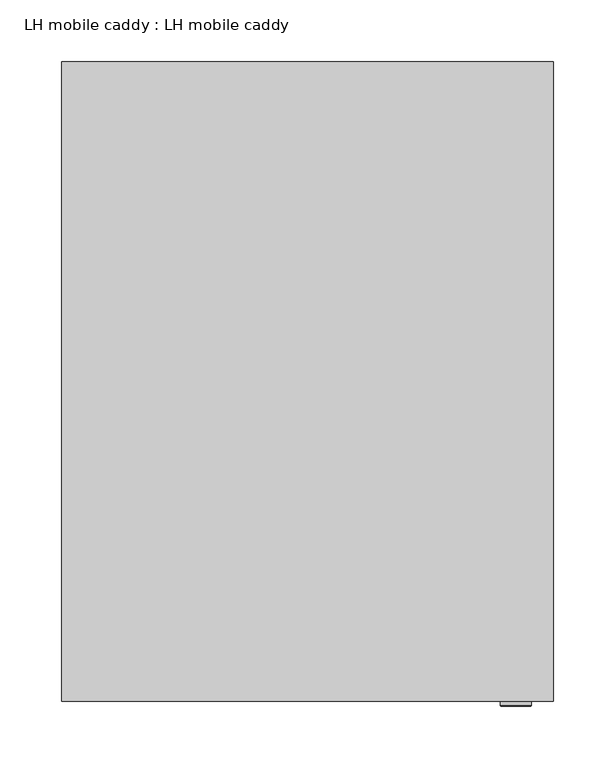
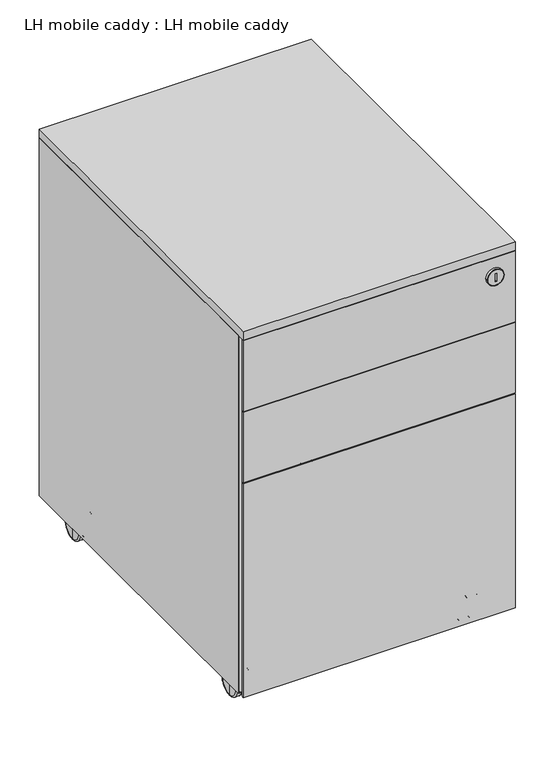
"""IFC4 building model written with IfcOpenShell, lengths in millimetres: furniture geometry, LH mobile caddy : LH mobile caddy."""

import ifcopenshell
import ifcopenshell.guid

model = None  # the IFC model being written
_history = None  # IfcOwnerHistory: only IFC2X3 demands one
_inside = {}  # id of a spatial element -> (the spatial element, [elements in it])
_under = {}  # id of a project, library or spatial element -> (it, [spatial elements below it])
_declared = {}  # id of a project -> (the project, [libraries it declares])
_typed = {}  # id of a type object -> (the type object, [elements of that type])
_made_of = {}  # id of a material, layer set ... -> (it, [elements and type objects made of it])


def new_model(schema):
    """Start an empty IFC model of exactly this schema.

    Asked for "IFC4X3", IfcOpenShell would pick the latest addendum, in which some entities
    have other attributes; the version numbers below select the first issue.
    IFC2X3 requires an IfcOwnerHistory on every rooted entity: one is made here for all.
    """
    global model, _history
    if schema == "IFC4X3":
        model = ifcopenshell.file(schema_version=(4, 3, 0, 0))
    else:
        model = ifcopenshell.file(schema=schema)
    _inside.clear()
    _under.clear()
    _declared.clear()
    _typed.clear()
    _made_of.clear()
    _history = None
    if model.schema == "IFC2X3":
        org = make("IfcOrganization", Name="unknown")
        user = make(
            "IfcPersonAndOrganization",
            ThePerson=make("IfcPerson", FamilyName="unknown"),
            TheOrganization=org,
        )
        app = make(
            "IfcApplication",
            ApplicationDeveloper=org,
            Version="unknown",
            ApplicationFullName="unknown",
            ApplicationIdentifier="unknown",
        )
        _history = make(
            "IfcOwnerHistory",
            OwningUser=user,
            OwningApplication=app,
            ChangeAction="ADDED",
            CreationDate=0,
        )
    return model


def make(cls, **values):
    """One entity of the class cls with the attributes given. An attribute that is None is left unset."""
    return model.create_entity(
        cls, **{name: value for name, value in values.items() if value is not None}
    )


def rooted(cls, **values):
    """An entity with a GlobalId (a new one), such as an element, a storey or a relation."""
    return make(cls, GlobalId=ifcopenshell.guid.new(), OwnerHistory=_history, **values)


def si_unit(unit_type, name, prefix=None):
    """IfcSIUnit, for example si_unit("LENGTHUNIT", "METRE", prefix="MILLI")."""
    return make("IfcSIUnit", UnitType=unit_type, Prefix=prefix, Name=name)


def assignment(units):
    """IfcUnitAssignment: the units of a project."""
    return None if units is None else make("IfcUnitAssignment", Units=units)


def point(xyz):
    """IfcCartesianPoint."""
    return None if xyz is None else make("IfcCartesianPoint", Coordinates=xyz)


def direction(xyz):
    """IfcDirection."""
    return None if xyz is None else make("IfcDirection", DirectionRatios=xyz)


def frame(location, z_axis=None, x_axis=None):
    """IfcAxis2Placement3D, a coordinate frame: its origin and axes. An axis left out is left unset."""
    return make(
        "IfcAxis2Placement3D",
        Location=point(location),
        Axis=direction(z_axis),
        RefDirection=direction(x_axis),
    )


def frame_2d(location, x_axis=None):
    """IfcAxis2Placement2D, a coordinate frame in the plane: its origin and x axis."""
    return make(
        "IfcAxis2Placement2D", Location=point(location), RefDirection=direction(x_axis)
    )


def origin():
    """The frame at (0, 0, 0) with its axes left unset."""
    return frame((0.0, 0.0, 0.0))


def place(relative_to, where):
    """IfcLocalPlacement: puts the frame where relative to a parent placement (None: the world)."""
    return make(
        "IfcLocalPlacement", PlacementRelTo=relative_to, RelativePlacement=where
    )


def context(
    kind, dimensions, precision=None, world=None, true_north=None, identifier=None
):
    """IfcGeometricRepresentationContext, for example the 3D "Model" context."""
    return make(
        "IfcGeometricRepresentationContext",
        ContextIdentifier=identifier,
        ContextType=kind,
        CoordinateSpaceDimension=dimensions,
        Precision=precision,
        WorldCoordinateSystem=world,
        TrueNorth=true_north,
    )


def project(units=None, contexts=None):
    """IfcProject with its units and contexts."""
    return rooted(
        "IfcProject",
        Name="project",
        RepresentationContexts=contexts,
        UnitsInContext=assignment(units),
    )


def spatial(cls, under=None, at=None, **own):
    """A site, building, storey or space (cls), placed at a placement, below another one or the project."""
    s = rooted(cls, ObjectPlacement=at, **own)
    if under is not None:
        _under.setdefault(under.id(), (under, []))[1].append(s)
    return s


def polyline(points):
    """IfcPolyline through the points."""
    return make("IfcPolyline", Points=[point(p) for p in points])


def circle_curve(where, radius):
    """IfcCircle in the frame where."""
    return make("IfcCircle", Position=where, Radius=radius)


def ellipse_curve(where, semi_axis1, semi_axis2):
    """IfcEllipse in the frame where."""
    return make(
        "IfcEllipse", Position=where, SemiAxis1=semi_axis1, SemiAxis2=semi_axis2
    )


def trimmed(basis, trim1, trim2, sense, master):
    """IfcTrimmedCurve: the piece of a basis curve between two trims."""
    return make(
        "IfcTrimmedCurve",
        BasisCurve=basis,
        Trim1=trim1,
        Trim2=trim2,
        SenseAgreement=sense,
        MasterRepresentation=master,
    )


def segment(curve, same_sense, transition):
    """IfcCompositeCurveSegment."""
    return make(
        "IfcCompositeCurveSegment",
        Transition=transition,
        SameSense=same_sense,
        ParentCurve=curve,
    )


def composite_curve(segments, self_intersect=None):
    """IfcCompositeCurve: segments joined end to end."""
    return make("IfcCompositeCurve", Segments=segments, SelfIntersect=self_intersect)


def outline(outer, holes=None, kind="AREA"):
    """IfcArbitraryClosedProfileDef: a profile drawn as a closed curve; with holes, ...WithVoids."""
    if holes is None:
        return make("IfcArbitraryClosedProfileDef", ProfileType=kind, OuterCurve=outer)
    return make(
        "IfcArbitraryProfileDefWithVoids",
        ProfileType=kind,
        OuterCurve=outer,
        InnerCurves=holes,
    )


def extrude(swept, where, along, depth):
    """IfcExtrudedAreaSolid: the profile swept, set in the frame where, extruded along a direction by depth."""
    return make(
        "IfcExtrudedAreaSolid",
        SweptArea=swept,
        Position=where,
        ExtrudedDirection=direction(along),
        Depth=depth,
    )


def shape(context_of_items, identifier, shape_type, items):
    """IfcShapeRepresentation: the items that make up one representation, for example the "Body"."""
    return make(
        "IfcShapeRepresentation",
        ContextOfItems=context_of_items,
        RepresentationIdentifier=identifier,
        RepresentationType=shape_type,
        Items=items,
    )


def source(mapping_origin, context_of_items, identifier, shape_type, items):
    """IfcRepresentationMap: a shape defined once, which mapped items show again and again."""
    return make(
        "IfcRepresentationMap",
        MappingOrigin=mapping_origin,
        MappedRepresentation=shape(context_of_items, identifier, shape_type, items),
    )


def transform(
    local_origin,
    x_axis=None,
    y_axis=None,
    z_axis=None,
    scale=None,
    scale2=None,
    scale3=None,
    uniform=True,
):
    """IfcCartesianTransformationOperator3D, or its non-uniform kind. x_axis, y_axis, z_axis: its Axis1, 2, 3."""
    if uniform:
        return make(
            "IfcCartesianTransformationOperator3D",
            Axis1=direction(x_axis),
            Axis2=direction(y_axis),
            LocalOrigin=point(local_origin),
            Scale=scale,
            Axis3=direction(z_axis),
        )
    return make(
        "IfcCartesianTransformationOperator3DnonUniform",
        Axis1=direction(x_axis),
        Axis2=direction(y_axis),
        LocalOrigin=point(local_origin),
        Scale=scale,
        Axis3=direction(z_axis),
        Scale2=scale2,
        Scale3=scale3,
    )


def mapped(mapping_source, mapping_target):
    """IfcMappedItem: shows the shape of a source again, moved by a transform."""
    return make(
        "IfcMappedItem", MappingSource=mapping_source, MappingTarget=mapping_target
    )


def made_of(thing, what):
    """Note that an element or type object is made of a material, layer set ...; save() writes the relation."""
    if what is not None:
        _made_of.setdefault(what.id(), (what, []))[1].append(thing)
    return thing


def element(
    cls,
    number,
    at=None,
    inside=None,
    cuts=None,
    type_object=None,
    material=None,
    context=None,
    identifier="Body",
    shape_type=None,
    held_by="IfcProductDefinitionShape",
    body=None,
    shapes=None,
    **own,
):
    """One element of the class cls, such as IfcWall. Its Tag is "e" and its number.

    at: its placement. inside: the storey or other place that contains it. cuts: it is an
    opening in that element (IfcRelVoidsElement). A single representation is given by context,
    identifier, shape_type and body (its items); several are given by shapes. held_by: the class
    of the entity that holds the representations. save() writes the other relations.
    """
    e = rooted(cls, Tag="e%d" % number, ObjectPlacement=at, **own)
    if body is not None:
        shapes = [shape(context, identifier, shape_type, body)]
    if shapes is not None:
        e.Representation = make(held_by, Representations=shapes)
    if inside is not None:
        _inside.setdefault(inside.id(), (inside, []))[1].append(e)
    if cuts is not None:
        rooted(
            "IfcRelVoidsElement", RelatingBuildingElement=cuts, RelatedOpeningElement=e
        )
    if type_object is not None:
        _typed.setdefault(type_object.id(), (type_object, []))[1].append(e)
    return made_of(e, material)


def aggregate(whole, parts):
    """IfcRelAggregates: a whole, such as a stair, and the parts it consists of."""
    return rooted("IfcRelAggregates", RelatingObject=whole, RelatedObjects=parts)


def save(model, path):
    """Write the relations noted so far, then the file.

    IfcRelAggregates (storeys below a building ...), IfcRelContainedInSpatialStructure (elements
    in a storey), IfcRelDefinesByType, IfcRelAssociatesMaterial and IfcRelDeclares: one each for
    every whole, place, type object, material and project.
    """
    for whole, parts in _under.values():
        aggregate(whole, parts)
    for where, things in _inside.values():
        rooted(
            "IfcRelContainedInSpatialStructure",
            RelatedElements=things,
            RelatingStructure=where,
        )
    for kind, things in _typed.values():
        rooted("IfcRelDefinesByType", RelatedObjects=things, RelatingType=kind)
    for what, things in _made_of.values():
        rooted("IfcRelAssociatesMaterial", RelatedObjects=things, RelatingMaterial=what)
    for by, libraries in _declared.values():
        rooted("IfcRelDeclares", RelatingContext=by, RelatedDefinitions=libraries)
    model.write(path)


def plane_surface(at):
    """IfcPlane: the flat surface through the origin of the frame at, square to its z axis."""
    return make("IfcPlane", Position=at)


def cylinder_surface(at, radius):
    """IfcCylindricalSurface: all points at the distance radius from the z axis of the frame at."""
    return make("IfcCylindricalSurface", Position=at, Radius=radius)


def revolved_surface(curve, axis_point, axis_direction):
    """IfcSurfaceOfRevolution: the curve turned about the line through axis_point along axis_direction."""
    return make(
        "IfcSurfaceOfRevolution",
        SweptCurve=make("IfcArbitraryOpenProfileDef", ProfileType="CURVE", Curve=curve),
        AxisPosition=make("IfcAxis1Placement", Location=point(axis_point), Axis=direction(axis_direction)),
    )


def advanced_brep(points, edges, surfaces, faces):
    """IfcAdvancedBrep: a solid bounded by faces that lie on surfaces and meet in shared edges.

    An edge is (start, end): straight between two places in points (the first is 0);
    or (start, end, curve); or (start, end, curve, False) where it runs against its curve.
    A face is (place in surfaces, loops), or (place, loops, False) where it looks against
    its surface's normal. A loop lists edges by number (the first is 1), with a minus sign
    where the edge is run from its end to its start. The first loop is the outer one.
    """
    corners = [point(p) for p in points]
    vertices = [make("IfcVertexPoint", VertexGeometry=c) for c in corners]
    made = []
    for start, end, *more in edges:
        made.append(
            make(
                "IfcEdgeCurve",
                EdgeStart=vertices[start],
                EdgeEnd=vertices[end],
                EdgeGeometry=more[0] if more else make("IfcPolyline", Points=[corners[start], corners[end]]),
                SameSense=more[1] if len(more) > 1 else True,
            )
        )
    hull = []
    for where, loops, *sense in faces:
        bounds = []
        for j, loop in enumerate(loops):
            ring = [make("IfcOrientedEdge", EdgeElement=made[abs(k) - 1], Orientation=k > 0) for k in loop]
            bounds.append(
                make(
                    "IfcFaceOuterBound" if j == 0 else "IfcFaceBound",
                    Bound=make("IfcEdgeLoop", EdgeList=ring),
                    Orientation=True,
                )
            )
        hull.append(make("IfcAdvancedFace", Bounds=bounds, FaceSurface=surfaces[where], SameSense=sense[0] if sense else True))
    return make("IfcAdvancedBrep", Outer=make("IfcClosedShell", CfsFaces=hull))


def lh_mobile_caddy_lh_mobile_caddy_ec028b27(model_context):
    return source(origin(), model_context, "Body", "SolidModel", [
        extrude(outline(polyline([(170.5273848, -260.0), (168.5273848, -260.0), (168.5273848, -160.0), (170.5273848, -160.0), (170.5273848, -260.0)])), frame((0.0, 0.0, 566.6206655), z_axis=(0.0, 0.0, 1.0), x_axis=(1.0, 0.0, 0.0)), (0.0, 0.0, 1.0), 12.0),
        advanced_brep(
        [(157.9473365, -264.0, 572.5526635), (181.0526635, -264.0, 572.5526635), (170.5273848, -264.0, 578.6206655), (170.5273848, -264.0, 566.6206655), (168.5273848, -264.0, 566.6206655), (168.5273848, -264.0, 578.6206655), (156.9473365, -260.0, 572.5526635), (182.0526635, -260.0, 572.5526635), (170.5273848, -260.0, 578.6206655), (168.5273848, -260.0, 578.6206655), (168.5273848, -260.0, 566.6206655), (170.5273848, -260.0, 566.6206655), (182.0526635, -263.0, 572.5526635), (156.9473365, -263.0, 572.5526635)],
        [
            (0, 1, circle_curve(frame((169.5, -264.0, 572.5526635), z_axis=(0.0, -1.0, 0.0), x_axis=(1.0, 0.0, 0.0)), 11.5526635)),
            (1, 0, circle_curve(frame((169.5, -264.0, 572.5526635), z_axis=(0.0, -1.0, 0.0), x_axis=(-1.0, 0.0, 0.0)), 11.5526635)),
            (2, 3),
            (3, 4),
            (4, 5),
            (5, 2),
            (6, 7, circle_curve(frame((169.5, -260.0, 572.5526635), z_axis=(0.0, 1.0, 0.0), x_axis=(1.0, 0.0, 0.0)), 12.5526635)),
            (7, 6, circle_curve(frame((169.5, -260.0, 572.5526635), z_axis=(0.0, 1.0, 0.0), x_axis=(1.0, 0.0, 0.0)), 12.5526635)),
            (8, 9),
            (9, 10),
            (10, 11),
            (11, 8),
            (7, 12),
            (12, 13, circle_curve(frame((169.5, -263.0, 572.5526635), z_axis=(0.0, 1.0, 0.0), x_axis=(1.0, 0.0, 0.0)), 12.5526635)),
            (13, 6),
            (13, 12, circle_curve(frame((169.5, -263.0, 572.5526635), z_axis=(0.0, 1.0, 0.0), x_axis=(1.0, 0.0, 0.0)), 12.5526635)),
            (2, 8),
            (11, 3),
            (10, 4),
            (9, 5),
            (0, 13, circle_curve(frame((157.9473365, -263.0, 572.5526635), z_axis=(0.0, 0.0, -1.0), x_axis=(-1.0, 0.0, 0.0)), 1.0)),
            (12, 1, circle_curve(frame((181.0526635, -263.0, 572.5526635), z_axis=(0.0, 0.0, -1.0), x_axis=(1.0, 0.0, 0.0)), 1.0)),
        ],
        [
            plane_surface(frame((182.0526635, -264.0, 572.5526635), z_axis=(0.0, -1.0, 0.0), x_axis=(0.0, 0.0, 1.0))),
            plane_surface(frame((182.0526635, -260.0, 572.5526635), z_axis=(0.0, 1.0, 0.0), x_axis=(0.0, 0.0, -1.0))),
            cylinder_surface(frame((169.5, -260.0, 572.5526635), z_axis=(0.0, -1.0, 0.0), x_axis=(1.0, 0.0, 0.0)), 12.5526635),
            plane_surface(frame((170.5273848, -264.0, 578.6206655), z_axis=(-1.0, 0.0, 0.0), x_axis=(0.0, 1.0, 0.0))),
            plane_surface(frame((170.5273848, -264.0, 566.6206655), z_axis=(0.0, 0.0, 1.0), x_axis=(0.0, 1.0, 0.0))),
            plane_surface(frame((168.5273848, -264.0, 566.6206655), z_axis=(1.0, 0.0, 0.0), x_axis=(0.0, 1.0, 0.0))),
            plane_surface(frame((168.5273848, -264.0, 578.6206655), z_axis=(0.0, 0.0, -1.0), x_axis=(0.0, 1.0, 0.0))),
            revolved_surface(trimmed(ellipse_curve(frame((181.0526635, -263.0, 572.5526635), z_axis=(0.0, 0.0, 1.0), x_axis=(1.0, 0.0, 0.0)), 1.0, 1.0), [point((181.0526635, -264.0, 572.5526635))], [point((182.0526635, -263.0, 572.5526635))], True, "CARTESIAN"), (169.5, -264.0, 572.5526635), (0.0, 1.0, 0.0)),
            revolved_surface(trimmed(ellipse_curve(frame((157.9473365, -263.0, 572.5526635), z_axis=(0.0, 0.0, -1.0), x_axis=(-1.0, 0.0, 0.0)), 1.0, 1.0), [point((157.9473365, -264.0, 572.5526635))], [point((156.9473365, -263.0, 572.5526635))], True, "CARTESIAN"), (169.5, -264.0, 572.5526635), (0.0, 1.0, 0.0)),
        ],
        [
            (0, [[1, 2], [3, 4, 5, 6]]),
            (1, [[7, 8], [9, 10, 11, 12]]),
            (2, [[-8, 13, 14, 15]]),
            (2, [[-7, -15, 16, -13]]),
            (3, [[-3, 17, -12, 18]]),
            (4, [[-4, -18, -11, 19]]),
            (5, [[-5, -19, -10, 20]]),
            (6, [[-6, -20, -9, -17]]),
            (7, [[21, -14, 22, -1]]),
            (8, [[-21, -2, -22, -16]]),
        ],
    ),
        extrude(outline(polyline([(178.0, -180.0), (178.0, -200.0), (158.0, -200.0), (158.0, -180.0), (178.0, -180.0)])), frame((0.0, 0.0, 43.9728703), z_axis=(0.0, 0.0, 1.0), x_axis=(1.0, 0.0, 0.0)), (0.0, 0.0, 1.0), 1.0),
        extrude(outline(composite_curve([segment(trimmed(circle_curve(frame_2d((168.0, -190.0)), 5.0), [point((163.0, -190.0))], [point((173.0, -190.0))], False, "CARTESIAN"), True, "CONTINUOUS"), segment(trimmed(circle_curve(frame_2d((168.0, -190.0)), 5.0), [point((173.0, -190.0))], [point((163.0, -190.0))], False, "CARTESIAN"), True, "CONTINUOUS")], self_intersect=False)), frame((0.0, 0.0, 33.9910172), z_axis=(0.0, 0.0, 1.0), x_axis=(1.0, 0.0, 0.0)), (0.0, 0.0, 1.0), 9.9818531),
        advanced_brep(
        [(172.1141274, -190.0, -0.0314992), (172.1141274, -190.0, 38.0135337), (178.4241314, -190.0, 38.0135337), (178.4241314, -190.0, -0.0314992), (170.5141274, -190.0, 2.5273707), (170.5141274, -190.0, 35.4546638), (170.5141274, -190.0, 36.4135337), (170.5141274, -190.0, 1.5685008), (180.5141274, -190.0, 2.0584968), (180.5141274, -190.0, 35.9235376), (180.5141274, -190.0, 18.9910172), (165.4858726, -190.0, 2.5273707), (165.4858726, -190.0, 35.4546638), (165.4858726, -190.0, 1.6116925), (165.4858726, -190.0, 36.370342), (163.8426809, -190.0, -0.0314992), (163.8426809, -190.0, 38.0135337), (157.4746043, -190.0, -0.0314992), (157.4746043, -190.0, 38.0135337), (155.4858726, -190.0, 1.9572325), (155.4858726, -190.0, 36.0248019), (155.4858726, -190.0, 18.9910172)],
        [
            (0, 1, circle_curve(frame((172.1141274, -190.0, 18.9910172), z_axis=(1.0, 0.0, 0.0), x_axis=(0.0, 0.0, 1.0)), 19.0225164)),
            (1, 2),
            (2, 3, circle_curve(frame((178.4241314, -190.0, 18.9910172), z_axis=(-1.0, 0.0, 0.0), x_axis=(0.0, 0.0, 1.0)), 19.0225164)),
            (3, 0),
            (1, 0, circle_curve(frame((172.1141274, -190.0, 18.9910172), z_axis=(1.0, 0.0, 0.0), x_axis=(0.0, 0.0, 1.0)), 19.0225164)),
            (3, 2, circle_curve(frame((178.4241314, -190.0, 18.9910172), z_axis=(-1.0, 0.0, 0.0), x_axis=(0.0, 0.0, 1.0)), 19.0225164)),
            (4, 5, circle_curve(frame((170.5141274, -190.0, 18.9910172), z_axis=(1.0, 0.0, 0.0), x_axis=(0.0, 0.0, 1.0)), 16.4636466)),
            (5, 6),
            (6, 7, circle_curve(frame((170.5141274, -190.0, 18.9910172), z_axis=(-1.0, 0.0, 0.0), x_axis=(0.0, 0.0, 1.0)), 17.4225164)),
            (7, 4),
            (5, 4, circle_curve(frame((170.5141274, -190.0, 18.9910172), z_axis=(1.0, 0.0, 0.0), x_axis=(0.0, 0.0, 1.0)), 16.4636466)),
            (7, 6, circle_curve(frame((170.5141274, -190.0, 18.9910172), z_axis=(-1.0, 0.0, 0.0), x_axis=(0.0, 0.0, 1.0)), 17.4225164)),
            (8, 9, circle_curve(frame((180.5141274, -190.0, 18.9910172), z_axis=(1.0, 0.0, 0.0), x_axis=(0.0, 0.0, 1.0)), 16.9325204)),
            (9, 10),
            (10, 8),
            (9, 8, circle_curve(frame((180.5141274, -190.0, 18.9910172), z_axis=(1.0, 0.0, 0.0), x_axis=(0.0, 0.0, 1.0)), 16.9325204)),
            (2, 9, circle_curve(frame((178.4241314, -190.0, 35.9235376), z_axis=(0.0, 1.0, 0.0), x_axis=(1.0, 0.0, 0.0)), 2.0899961)),
            (8, 3, circle_curve(frame((178.4241314, -190.0, 2.0584968), z_axis=(0.0, 1.0, 0.0), x_axis=(1.0, 0.0, 0.0)), 2.0899961)),
            (6, 1, circle_curve(frame((172.1141274, -190.0, 36.4135337), z_axis=(0.0, 1.0, 0.0), x_axis=(1.0, 0.0, 0.0)), 1.6)),
            (0, 7, circle_curve(frame((172.1141274, -190.0, 1.5685008), z_axis=(0.0, 1.0, 0.0), x_axis=(1.0, 0.0, 0.0)), 1.6)),
            (11, 12, circle_curve(frame((165.4858726, -190.0, 18.9910172), z_axis=(1.0, 0.0, 0.0), x_axis=(0.0, 0.0, 1.0)), 16.4636466)),
            (12, 5),
            (4, 11),
            (12, 11, circle_curve(frame((165.4858726, -190.0, 18.9910172), z_axis=(1.0, 0.0, 0.0), x_axis=(0.0, 0.0, 1.0)), 16.4636466)),
            (13, 14, circle_curve(frame((165.4858726, -190.0, 18.9910172), z_axis=(1.0, 0.0, 0.0), x_axis=(0.0, 0.0, 1.0)), 17.3793248)),
            (14, 12),
            (11, 13),
            (14, 13, circle_curve(frame((165.4858726, -190.0, 18.9910172), z_axis=(1.0, 0.0, 0.0), x_axis=(0.0, 0.0, 1.0)), 17.3793248)),
            (15, 16, circle_curve(frame((163.8426809, -190.0, 18.9910172), z_axis=(1.0, 0.0, 0.0), x_axis=(0.0, 0.0, 1.0)), 19.0225164)),
            (16, 14, circle_curve(frame((163.8426809, -190.0, 36.370342), z_axis=(0.0, 1.0, 0.0), x_axis=(1.0, 0.0, 0.0)), 1.6431917)),
            (13, 15, circle_curve(frame((163.8426809, -190.0, 1.6116925), z_axis=(0.0, 1.0, 0.0), x_axis=(1.0, 0.0, 0.0)), 1.6431917)),
            (16, 15, circle_curve(frame((163.8426809, -190.0, 18.9910172), z_axis=(1.0, 0.0, 0.0), x_axis=(0.0, 0.0, 1.0)), 19.0225164)),
            (17, 18, circle_curve(frame((157.4746043, -190.0, 18.9910172), z_axis=(1.0, 0.0, 0.0), x_axis=(0.0, 0.0, 1.0)), 19.0225164)),
            (18, 16),
            (15, 17),
            (18, 17, circle_curve(frame((157.4746043, -190.0, 18.9910172), z_axis=(1.0, 0.0, 0.0), x_axis=(0.0, 0.0, 1.0)), 19.0225164)),
            (19, 20, circle_curve(frame((155.4858726, -190.0, 18.9910172), z_axis=(1.0, 0.0, 0.0), x_axis=(0.0, 0.0, 1.0)), 17.0337847)),
            (20, 18, circle_curve(frame((157.4746043, -190.0, 36.0248019), z_axis=(0.0, 1.0, 0.0), x_axis=(1.0, 0.0, 0.0)), 1.9887317)),
            (17, 19, circle_curve(frame((157.4746043, -190.0, 1.9572325), z_axis=(0.0, 1.0, 0.0), x_axis=(1.0, 0.0, 0.0)), 1.9887317)),
            (20, 19, circle_curve(frame((155.4858726, -190.0, 18.9910172), z_axis=(1.0, 0.0, 0.0), x_axis=(0.0, 0.0, 1.0)), 17.0337847)),
            (21, 20),
            (19, 21),
        ],
        [
            cylinder_surface(frame((126.3216538, -190.0, 18.9910172), z_axis=(-1.0, 0.0, 0.0), x_axis=(0.0, 0.0, 1.0)), 19.0225164),
            plane_surface(frame((170.5141274, -190.0, 18.9910172), z_axis=(-1.0, 0.0, 0.0), x_axis=(0.0, 0.0, 1.0))),
            plane_surface(frame((180.5141274, -190.0, 18.9910172), z_axis=(1.0, 0.0, 0.0), x_axis=(0.0, 0.0, 1.0))),
            revolved_surface(trimmed(ellipse_curve(frame((178.4241314, -190.0, 35.9235376), z_axis=(0.0, -1.0, 0.0), x_axis=(1.0, 0.0, 0.0)), 2.0899961, 2.0899961), [point((180.5141274, -190.0, 35.9235376))], [point((178.4241314, -190.0, 38.0135337))], True, "CARTESIAN"), (126.3216538, -190.0, 18.9910172), (-1.0, 0.0, 0.0)),
            revolved_surface(trimmed(ellipse_curve(frame((172.1141274, -190.0, 36.4135337), z_axis=(0.0, -1.0, 0.0), x_axis=(1.0, 0.0, 0.0)), 1.6, 1.6), [point((172.1141274, -190.0, 38.0135337))], [point((170.5141274, -190.0, 36.4135337))], True, "CARTESIAN"), (126.3216538, -190.0, 18.9910172), (-1.0, 0.0, 0.0)),
            cylinder_surface(frame((126.3216538, -190.0, 18.9910172), z_axis=(-1.0, 0.0, 0.0), x_axis=(0.0, 0.0, 1.0)), 16.4636466),
            plane_surface(frame((165.4858726, -190.0, 18.9910172), z_axis=(1.0, 0.0, 0.0), x_axis=(0.0, 0.0, 1.0))),
            revolved_surface(trimmed(ellipse_curve(frame((163.8426809, -190.0, 36.370342), z_axis=(0.0, -1.0, 0.0), x_axis=(1.0, 0.0, 0.0)), 1.6431917, 1.6431917), [point((165.4858726, -190.0, 36.370342))], [point((163.8426809, -190.0, 38.0135337))], True, "CARTESIAN"), (126.3216538, -190.0, 18.9910172), (-1.0, 0.0, 0.0)),
            revolved_surface(trimmed(ellipse_curve(frame((157.4746043, -190.0, 36.0248019), z_axis=(0.0, -1.0, 0.0), x_axis=(1.0, 0.0, 0.0)), 1.9887317, 1.9887317), [point((157.4746043, -190.0, 38.0135337))], [point((155.4858726, -190.0, 36.0248019))], True, "CARTESIAN"), (126.3216538, -190.0, 18.9910172), (-1.0, 0.0, 0.0)),
            plane_surface(frame((155.4858726, -190.0, 18.9910172), z_axis=(-1.0, 0.0, 0.0), x_axis=(0.0, 0.0, 1.0))),
        ],
        [
            (0, [[1, 2, 3, 4]]),
            (0, [[5, -4, 6, -2]]),
            (1, [[7, 8, 9, 10]]),
            (1, [[11, -10, 12, -8]]),
            (2, [[13, 14, 15]]),
            (2, [[16, -15, -14]]),
            (3, [[-3, 17, -13, 18]]),
            (3, [[-6, -18, -16, -17]]),
            (4, [[-9, 19, -1, 20]]),
            (4, [[-12, -20, -5, -19]]),
            (5, [[21, 22, -7, 23]]),
            (5, [[24, -23, -11, -22]]),
            (6, [[25, 26, -21, 27]]),
            (6, [[28, -27, -24, -26]]),
            (7, [[29, 30, -25, 31]]),
            (7, [[32, -31, -28, -30]]),
            (0, [[33, 34, -29, 35]]),
            (0, [[36, -35, -32, -34]]),
            (8, [[37, 38, -33, 39]]),
            (8, [[40, -39, -36, -38]]),
            (9, [[41, -37, 42]]),
            (9, [[-42, -40, -41]]),
        ],
    ),
        extrude(outline(polyline([(-158.0, -180.0), (-158.0, -200.0), (-178.0, -200.0), (-178.0, -180.0), (-158.0, -180.0)])), frame((0.0, 0.0, 43.9728703), z_axis=(0.0, 0.0, 1.0), x_axis=(1.0, 0.0, 0.0)), (0.0, 0.0, 1.0), 1.0),
        extrude(outline(composite_curve([segment(trimmed(circle_curve(frame_2d((-168.0, -190.0)), 5.0), [point((-173.0, -190.0))], [point((-163.0, -190.0))], False, "CARTESIAN"), True, "CONTINUOUS"), segment(trimmed(circle_curve(frame_2d((-168.0, -190.0)), 5.0), [point((-163.0, -190.0))], [point((-173.0, -190.0))], False, "CARTESIAN"), True, "CONTINUOUS")], self_intersect=False)), frame((0.0, 0.0, 33.9910172), z_axis=(0.0, 0.0, 1.0), x_axis=(1.0, 0.0, 0.0)), (0.0, 0.0, 1.0), 9.9818531),
        advanced_brep(
        [(-163.8858726, -190.0, -0.0314992), (-163.8858726, -190.0, 38.0135337), (-157.5758686, -190.0, 38.0135337), (-157.5758686, -190.0, -0.0314992), (-165.4858726, -190.0, 2.5273707), (-165.4858726, -190.0, 35.4546638), (-165.4858726, -190.0, 36.4135337), (-165.4858726, -190.0, 1.5685008), (-155.4858726, -190.0, 2.0584968), (-155.4858726, -190.0, 35.9235376), (-155.4858726, -190.0, 18.9910172), (-170.5141274, -190.0, 2.5273707), (-170.5141274, -190.0, 35.4546638), (-170.5141274, -190.0, 1.6116925), (-170.5141274, -190.0, 36.370342), (-172.1573191, -190.0, -0.0314992), (-172.1573191, -190.0, 38.0135337), (-178.5253957, -190.0, -0.0314992), (-178.5253957, -190.0, 38.0135337), (-180.5141274, -190.0, 1.9572325), (-180.5141274, -190.0, 36.0248019), (-180.5141274, -190.0, 18.9910172)],
        [
            (0, 1, circle_curve(frame((-163.8858726, -190.0, 18.9910172), z_axis=(1.0, 0.0, 0.0), x_axis=(0.0, 0.0, 1.0)), 19.0225164)),
            (1, 2),
            (2, 3, circle_curve(frame((-157.5758686, -190.0, 18.9910172), z_axis=(-1.0, 0.0, 0.0), x_axis=(0.0, 0.0, 1.0)), 19.0225164)),
            (3, 0),
            (1, 0, circle_curve(frame((-163.8858726, -190.0, 18.9910172), z_axis=(1.0, 0.0, 0.0), x_axis=(0.0, 0.0, 1.0)), 19.0225164)),
            (3, 2, circle_curve(frame((-157.5758686, -190.0, 18.9910172), z_axis=(-1.0, 0.0, 0.0), x_axis=(0.0, 0.0, 1.0)), 19.0225164)),
            (4, 5, circle_curve(frame((-165.4858726, -190.0, 18.9910172), z_axis=(1.0, 0.0, 0.0), x_axis=(0.0, 0.0, 1.0)), 16.4636466)),
            (5, 6),
            (6, 7, circle_curve(frame((-165.4858726, -190.0, 18.9910172), z_axis=(-1.0, 0.0, 0.0), x_axis=(0.0, 0.0, 1.0)), 17.4225164)),
            (7, 4),
            (5, 4, circle_curve(frame((-165.4858726, -190.0, 18.9910172), z_axis=(1.0, 0.0, 0.0), x_axis=(0.0, 0.0, 1.0)), 16.4636466)),
            (7, 6, circle_curve(frame((-165.4858726, -190.0, 18.9910172), z_axis=(-1.0, 0.0, 0.0), x_axis=(0.0, 0.0, 1.0)), 17.4225164)),
            (8, 9, circle_curve(frame((-155.4858726, -190.0, 18.9910172), z_axis=(1.0, 0.0, 0.0), x_axis=(0.0, 0.0, 1.0)), 16.9325204)),
            (9, 10),
            (10, 8),
            (9, 8, circle_curve(frame((-155.4858726, -190.0, 18.9910172), z_axis=(1.0, 0.0, 0.0), x_axis=(0.0, 0.0, 1.0)), 16.9325204)),
            (2, 9, circle_curve(frame((-157.5758686, -190.0, 35.9235376), z_axis=(0.0, 1.0, 0.0), x_axis=(1.0, 0.0, 0.0)), 2.0899961)),
            (8, 3, circle_curve(frame((-157.5758686, -190.0, 2.0584968), z_axis=(0.0, 1.0, 0.0), x_axis=(1.0, 0.0, 0.0)), 2.0899961)),
            (6, 1, circle_curve(frame((-163.8858726, -190.0, 36.4135337), z_axis=(0.0, 1.0, 0.0), x_axis=(1.0, 0.0, 0.0)), 1.6)),
            (0, 7, circle_curve(frame((-163.8858726, -190.0, 1.5685008), z_axis=(0.0, 1.0, 0.0), x_axis=(1.0, 0.0, 0.0)), 1.6)),
            (11, 12, circle_curve(frame((-170.5141274, -190.0, 18.9910172), z_axis=(1.0, 0.0, 0.0), x_axis=(0.0, 0.0, 1.0)), 16.4636466)),
            (12, 5),
            (4, 11),
            (12, 11, circle_curve(frame((-170.5141274, -190.0, 18.9910172), z_axis=(1.0, 0.0, 0.0), x_axis=(0.0, 0.0, 1.0)), 16.4636466)),
            (13, 14, circle_curve(frame((-170.5141274, -190.0, 18.9910172), z_axis=(1.0, 0.0, 0.0), x_axis=(0.0, 0.0, 1.0)), 17.3793248)),
            (14, 12),
            (11, 13),
            (14, 13, circle_curve(frame((-170.5141274, -190.0, 18.9910172), z_axis=(1.0, 0.0, 0.0), x_axis=(0.0, 0.0, 1.0)), 17.3793248)),
            (15, 16, circle_curve(frame((-172.1573191, -190.0, 18.9910172), z_axis=(1.0, 0.0, 0.0), x_axis=(0.0, 0.0, 1.0)), 19.0225164)),
            (16, 14, circle_curve(frame((-172.1573191, -190.0, 36.370342), z_axis=(0.0, 1.0, 0.0), x_axis=(1.0, 0.0, 0.0)), 1.6431917)),
            (13, 15, circle_curve(frame((-172.1573191, -190.0, 1.6116925), z_axis=(0.0, 1.0, 0.0), x_axis=(1.0, 0.0, 0.0)), 1.6431917)),
            (16, 15, circle_curve(frame((-172.1573191, -190.0, 18.9910172), z_axis=(1.0, 0.0, 0.0), x_axis=(0.0, 0.0, 1.0)), 19.0225164)),
            (17, 18, circle_curve(frame((-178.5253957, -190.0, 18.9910172), z_axis=(1.0, 0.0, 0.0), x_axis=(0.0, 0.0, 1.0)), 19.0225164)),
            (18, 16),
            (15, 17),
            (18, 17, circle_curve(frame((-178.5253957, -190.0, 18.9910172), z_axis=(1.0, 0.0, 0.0), x_axis=(0.0, 0.0, 1.0)), 19.0225164)),
            (19, 20, circle_curve(frame((-180.5141274, -190.0, 18.9910172), z_axis=(1.0, 0.0, 0.0), x_axis=(0.0, 0.0, 1.0)), 17.0337847)),
            (20, 18, circle_curve(frame((-178.5253957, -190.0, 36.0248019), z_axis=(0.0, 1.0, 0.0), x_axis=(1.0, 0.0, 0.0)), 1.9887317)),
            (17, 19, circle_curve(frame((-178.5253957, -190.0, 1.9572325), z_axis=(0.0, 1.0, 0.0), x_axis=(1.0, 0.0, 0.0)), 1.9887317)),
            (20, 19, circle_curve(frame((-180.5141274, -190.0, 18.9910172), z_axis=(1.0, 0.0, 0.0), x_axis=(0.0, 0.0, 1.0)), 17.0337847)),
            (21, 20),
            (19, 21),
        ],
        [
            cylinder_surface(frame((-209.6783462, -190.0, 18.9910172), z_axis=(-1.0, 0.0, 0.0), x_axis=(0.0, 0.0, 1.0)), 19.0225164),
            plane_surface(frame((-165.4858726, -190.0, 18.9910172), z_axis=(-1.0, 0.0, 0.0), x_axis=(0.0, 0.0, 1.0))),
            plane_surface(frame((-155.4858726, -190.0, 18.9910172), z_axis=(1.0, 0.0, 0.0), x_axis=(0.0, 0.0, 1.0))),
            revolved_surface(trimmed(ellipse_curve(frame((-157.5758686, -190.0, 35.9235376), z_axis=(0.0, -1.0, 0.0), x_axis=(1.0, 0.0, 0.0)), 2.0899961, 2.0899961), [point((-155.4858726, -190.0, 35.9235376))], [point((-157.5758686, -190.0, 38.0135337))], True, "CARTESIAN"), (-209.6783462, -190.0, 18.9910172), (-1.0, 0.0, 0.0)),
            revolved_surface(trimmed(ellipse_curve(frame((-163.8858726, -190.0, 36.4135337), z_axis=(0.0, -1.0, 0.0), x_axis=(1.0, 0.0, 0.0)), 1.6, 1.6), [point((-163.8858726, -190.0, 38.0135337))], [point((-165.4858726, -190.0, 36.4135337))], True, "CARTESIAN"), (-209.6783462, -190.0, 18.9910172), (-1.0, 0.0, 0.0)),
            cylinder_surface(frame((-209.6783462, -190.0, 18.9910172), z_axis=(-1.0, 0.0, 0.0), x_axis=(0.0, 0.0, 1.0)), 16.4636466),
            plane_surface(frame((-170.5141274, -190.0, 18.9910172), z_axis=(1.0, 0.0, 0.0), x_axis=(0.0, 0.0, 1.0))),
            revolved_surface(trimmed(ellipse_curve(frame((-172.1573191, -190.0, 36.370342), z_axis=(0.0, -1.0, 0.0), x_axis=(1.0, 0.0, 0.0)), 1.6431917, 1.6431917), [point((-170.5141274, -190.0, 36.370342))], [point((-172.1573191, -190.0, 38.0135337))], True, "CARTESIAN"), (-209.6783462, -190.0, 18.9910172), (-1.0, 0.0, 0.0)),
            revolved_surface(trimmed(ellipse_curve(frame((-178.5253957, -190.0, 36.0248019), z_axis=(0.0, -1.0, 0.0), x_axis=(1.0, 0.0, 0.0)), 1.9887317, 1.9887317), [point((-178.5253957, -190.0, 38.0135337))], [point((-180.5141274, -190.0, 36.0248019))], True, "CARTESIAN"), (-209.6783462, -190.0, 18.9910172), (-1.0, 0.0, 0.0)),
            plane_surface(frame((-180.5141274, -190.0, 18.9910172), z_axis=(-1.0, 0.0, 0.0), x_axis=(0.0, 0.0, 1.0))),
        ],
        [
            (0, [[1, 2, 3, 4]]),
            (0, [[5, -4, 6, -2]]),
            (1, [[7, 8, 9, 10]]),
            (1, [[11, -10, 12, -8]]),
            (2, [[13, 14, 15]]),
            (2, [[16, -15, -14]]),
            (3, [[-3, 17, -13, 18]]),
            (3, [[-6, -18, -16, -17]]),
            (4, [[-9, 19, -1, 20]]),
            (4, [[-12, -20, -5, -19]]),
            (5, [[21, 22, -7, 23]]),
            (5, [[24, -23, -11, -22]]),
            (6, [[25, 26, -21, 27]]),
            (6, [[28, -27, -24, -26]]),
            (7, [[29, 30, -25, 31]]),
            (7, [[32, -31, -28, -30]]),
            (0, [[33, 34, -29, 35]]),
            (0, [[36, -35, -32, -34]]),
            (8, [[37, 38, -33, 39]]),
            (8, [[40, -39, -36, -38]]),
            (9, [[41, -37, 42]]),
            (9, [[-42, -40, -41]]),
        ],
    ),
        extrude(outline(polyline([(-158.0, 220.0), (-158.0, 200.0), (-178.0, 200.0), (-178.0, 220.0), (-158.0, 220.0)])), frame((0.0, 0.0, 43.9728703), z_axis=(0.0, 0.0, 1.0), x_axis=(1.0, 0.0, 0.0)), (0.0, 0.0, 1.0), 1.0),
        extrude(outline(composite_curve([segment(trimmed(circle_curve(frame_2d((-168.0, 210.0)), 5.0), [point((-173.0, 210.0))], [point((-163.0, 210.0))], False, "CARTESIAN"), True, "CONTINUOUS"), segment(trimmed(circle_curve(frame_2d((-168.0, 210.0)), 5.0), [point((-163.0, 210.0))], [point((-173.0, 210.0))], False, "CARTESIAN"), True, "CONTINUOUS")], self_intersect=False)), frame((0.0, 0.0, 33.9910172), z_axis=(0.0, 0.0, 1.0), x_axis=(1.0, 0.0, 0.0)), (0.0, 0.0, 1.0), 9.9818531),
        advanced_brep(
        [(-163.8858726, 210.0, -0.0314992), (-163.8858726, 210.0, 38.0135337), (-157.5758686, 210.0, 38.0135337), (-157.5758686, 210.0, -0.0314992), (-165.4858726, 210.0, 2.5273707), (-165.4858726, 210.0, 35.4546638), (-165.4858726, 210.0, 36.4135337), (-165.4858726, 210.0, 1.5685008), (-155.4858726, 210.0, 2.0584968), (-155.4858726, 210.0, 35.9235376), (-155.4858726, 210.0, 18.9910172), (-170.5141274, 210.0, 2.5273707), (-170.5141274, 210.0, 35.4546638), (-170.5141274, 210.0, 1.6116925), (-170.5141274, 210.0, 36.370342), (-172.1573191, 210.0, -0.0314992), (-172.1573191, 210.0, 38.0135337), (-178.5253957, 210.0, -0.0314992), (-178.5253957, 210.0, 38.0135337), (-180.5141274, 210.0, 1.9572325), (-180.5141274, 210.0, 36.0248019), (-180.5141274, 210.0, 18.9910172)],
        [
            (0, 1, circle_curve(frame((-163.8858726, 210.0, 18.9910172), z_axis=(1.0, 0.0, 0.0), x_axis=(0.0, 0.0, 1.0)), 19.0225164)),
            (1, 2),
            (2, 3, circle_curve(frame((-157.5758686, 210.0, 18.9910172), z_axis=(-1.0, 0.0, 0.0), x_axis=(0.0, 0.0, 1.0)), 19.0225164)),
            (3, 0),
            (1, 0, circle_curve(frame((-163.8858726, 210.0, 18.9910172), z_axis=(1.0, 0.0, 0.0), x_axis=(0.0, 0.0, 1.0)), 19.0225164)),
            (3, 2, circle_curve(frame((-157.5758686, 210.0, 18.9910172), z_axis=(-1.0, 0.0, 0.0), x_axis=(0.0, 0.0, 1.0)), 19.0225164)),
            (4, 5, circle_curve(frame((-165.4858726, 210.0, 18.9910172), z_axis=(1.0, 0.0, 0.0), x_axis=(0.0, 0.0, 1.0)), 16.4636466)),
            (5, 6),
            (6, 7, circle_curve(frame((-165.4858726, 210.0, 18.9910172), z_axis=(-1.0, 0.0, 0.0), x_axis=(0.0, 0.0, 1.0)), 17.4225164)),
            (7, 4),
            (5, 4, circle_curve(frame((-165.4858726, 210.0, 18.9910172), z_axis=(1.0, 0.0, 0.0), x_axis=(0.0, 0.0, 1.0)), 16.4636466)),
            (7, 6, circle_curve(frame((-165.4858726, 210.0, 18.9910172), z_axis=(-1.0, 0.0, 0.0), x_axis=(0.0, 0.0, 1.0)), 17.4225164)),
            (8, 9, circle_curve(frame((-155.4858726, 210.0, 18.9910172), z_axis=(1.0, 0.0, 0.0), x_axis=(0.0, 0.0, 1.0)), 16.9325204)),
            (9, 10),
            (10, 8),
            (9, 8, circle_curve(frame((-155.4858726, 210.0, 18.9910172), z_axis=(1.0, 0.0, 0.0), x_axis=(0.0, 0.0, 1.0)), 16.9325204)),
            (2, 9, circle_curve(frame((-157.5758686, 210.0, 35.9235376), z_axis=(0.0, 1.0, 0.0), x_axis=(1.0, 0.0, 0.0)), 2.0899961)),
            (8, 3, circle_curve(frame((-157.5758686, 210.0, 2.0584968), z_axis=(0.0, 1.0, 0.0), x_axis=(1.0, 0.0, 0.0)), 2.0899961)),
            (6, 1, circle_curve(frame((-163.8858726, 210.0, 36.4135337), z_axis=(0.0, 1.0, 0.0), x_axis=(1.0, 0.0, 0.0)), 1.6)),
            (0, 7, circle_curve(frame((-163.8858726, 210.0, 1.5685008), z_axis=(0.0, 1.0, 0.0), x_axis=(1.0, 0.0, 0.0)), 1.6)),
            (11, 12, circle_curve(frame((-170.5141274, 210.0, 18.9910172), z_axis=(1.0, 0.0, 0.0), x_axis=(0.0, 0.0, 1.0)), 16.4636466)),
            (12, 5),
            (4, 11),
            (12, 11, circle_curve(frame((-170.5141274, 210.0, 18.9910172), z_axis=(1.0, 0.0, 0.0), x_axis=(0.0, 0.0, 1.0)), 16.4636466)),
            (13, 14, circle_curve(frame((-170.5141274, 210.0, 18.9910172), z_axis=(1.0, 0.0, 0.0), x_axis=(0.0, 0.0, 1.0)), 17.3793248)),
            (14, 12),
            (11, 13),
            (14, 13, circle_curve(frame((-170.5141274, 210.0, 18.9910172), z_axis=(1.0, 0.0, 0.0), x_axis=(0.0, 0.0, 1.0)), 17.3793248)),
            (15, 16, circle_curve(frame((-172.1573191, 210.0, 18.9910172), z_axis=(1.0, 0.0, 0.0), x_axis=(0.0, 0.0, 1.0)), 19.0225164)),
            (16, 14, circle_curve(frame((-172.1573191, 210.0, 36.370342), z_axis=(0.0, 1.0, 0.0), x_axis=(1.0, 0.0, 0.0)), 1.6431917)),
            (13, 15, circle_curve(frame((-172.1573191, 210.0, 1.6116925), z_axis=(0.0, 1.0, 0.0), x_axis=(1.0, 0.0, 0.0)), 1.6431917)),
            (16, 15, circle_curve(frame((-172.1573191, 210.0, 18.9910172), z_axis=(1.0, 0.0, 0.0), x_axis=(0.0, 0.0, 1.0)), 19.0225164)),
            (17, 18, circle_curve(frame((-178.5253957, 210.0, 18.9910172), z_axis=(1.0, 0.0, 0.0), x_axis=(0.0, 0.0, 1.0)), 19.0225164)),
            (18, 16),
            (15, 17),
            (18, 17, circle_curve(frame((-178.5253957, 210.0, 18.9910172), z_axis=(1.0, 0.0, 0.0), x_axis=(0.0, 0.0, 1.0)), 19.0225164)),
            (19, 20, circle_curve(frame((-180.5141274, 210.0, 18.9910172), z_axis=(1.0, 0.0, 0.0), x_axis=(0.0, 0.0, 1.0)), 17.0337847)),
            (20, 18, circle_curve(frame((-178.5253957, 210.0, 36.0248019), z_axis=(0.0, 1.0, 0.0), x_axis=(1.0, 0.0, 0.0)), 1.9887317)),
            (17, 19, circle_curve(frame((-178.5253957, 210.0, 1.9572325), z_axis=(0.0, 1.0, 0.0), x_axis=(1.0, 0.0, 0.0)), 1.9887317)),
            (20, 19, circle_curve(frame((-180.5141274, 210.0, 18.9910172), z_axis=(1.0, 0.0, 0.0), x_axis=(0.0, 0.0, 1.0)), 17.0337847)),
            (21, 20),
            (19, 21),
        ],
        [
            cylinder_surface(frame((-209.6783462, 210.0, 18.9910172), z_axis=(-1.0, 0.0, 0.0), x_axis=(0.0, 0.0, 1.0)), 19.0225164),
            plane_surface(frame((-165.4858726, 210.0, 18.9910172), z_axis=(-1.0, 0.0, 0.0), x_axis=(0.0, 0.0, 1.0))),
            plane_surface(frame((-155.4858726, 210.0, 18.9910172), z_axis=(1.0, 0.0, 0.0), x_axis=(0.0, 0.0, 1.0))),
            revolved_surface(trimmed(ellipse_curve(frame((-157.5758686, 210.0, 35.9235376), z_axis=(0.0, -1.0, 0.0), x_axis=(1.0, 0.0, 0.0)), 2.0899961, 2.0899961), [point((-155.4858726, 210.0, 35.9235376))], [point((-157.5758686, 210.0, 38.0135337))], True, "CARTESIAN"), (-209.6783462, 210.0, 18.9910172), (-1.0, 0.0, 0.0)),
            revolved_surface(trimmed(ellipse_curve(frame((-163.8858726, 210.0, 36.4135337), z_axis=(0.0, -1.0, 0.0), x_axis=(1.0, 0.0, 0.0)), 1.6, 1.6), [point((-163.8858726, 210.0, 38.0135337))], [point((-165.4858726, 210.0, 36.4135337))], True, "CARTESIAN"), (-209.6783462, 210.0, 18.9910172), (-1.0, 0.0, 0.0)),
            cylinder_surface(frame((-209.6783462, 210.0, 18.9910172), z_axis=(-1.0, 0.0, 0.0), x_axis=(0.0, 0.0, 1.0)), 16.4636466),
            plane_surface(frame((-170.5141274, 210.0, 18.9910172), z_axis=(1.0, 0.0, 0.0), x_axis=(0.0, 0.0, 1.0))),
            revolved_surface(trimmed(ellipse_curve(frame((-172.1573191, 210.0, 36.370342), z_axis=(0.0, -1.0, 0.0), x_axis=(1.0, 0.0, 0.0)), 1.6431917, 1.6431917), [point((-170.5141274, 210.0, 36.370342))], [point((-172.1573191, 210.0, 38.0135337))], True, "CARTESIAN"), (-209.6783462, 210.0, 18.9910172), (-1.0, 0.0, 0.0)),
            revolved_surface(trimmed(ellipse_curve(frame((-178.5253957, 210.0, 36.0248019), z_axis=(0.0, -1.0, 0.0), x_axis=(1.0, 0.0, 0.0)), 1.9887317, 1.9887317), [point((-178.5253957, 210.0, 38.0135337))], [point((-180.5141274, 210.0, 36.0248019))], True, "CARTESIAN"), (-209.6783462, 210.0, 18.9910172), (-1.0, 0.0, 0.0)),
            plane_surface(frame((-180.5141274, 210.0, 18.9910172), z_axis=(-1.0, 0.0, 0.0), x_axis=(0.0, 0.0, 1.0))),
        ],
        [
            (0, [[1, 2, 3, 4]]),
            (0, [[5, -4, 6, -2]]),
            (1, [[7, 8, 9, 10]]),
            (1, [[11, -10, 12, -8]]),
            (2, [[13, 14, 15]]),
            (2, [[16, -15, -14]]),
            (3, [[-3, 17, -13, 18]]),
            (3, [[-6, -18, -16, -17]]),
            (4, [[-9, 19, -1, 20]]),
            (4, [[-12, -20, -5, -19]]),
            (5, [[21, 22, -7, 23]]),
            (5, [[24, -23, -11, -22]]),
            (6, [[25, 26, -21, 27]]),
            (6, [[28, -27, -24, -26]]),
            (7, [[29, 30, -25, 31]]),
            (7, [[32, -31, -28, -30]]),
            (0, [[33, 34, -29, 35]]),
            (0, [[36, -35, -32, -34]]),
            (8, [[37, 38, -33, 39]]),
            (8, [[40, -39, -36, -38]]),
            (9, [[41, -37, 42]]),
            (9, [[-42, -40, -41]]),
        ],
    ),
        extrude(outline(polyline([(178.0, 220.0), (178.0, 200.0), (158.0, 200.0), (158.0, 220.0), (178.0, 220.0)])), frame((0.0, 0.0, 43.9728703), z_axis=(0.0, 0.0, 1.0), x_axis=(1.0, 0.0, 0.0)), (0.0, 0.0, 1.0), 1.0),
        extrude(outline(composite_curve([segment(trimmed(circle_curve(frame_2d((168.0, 210.0)), 5.0), [point((163.0, 210.0))], [point((173.0, 210.0))], False, "CARTESIAN"), True, "CONTINUOUS"), segment(trimmed(circle_curve(frame_2d((168.0, 210.0)), 5.0), [point((173.0, 210.0))], [point((163.0, 210.0))], False, "CARTESIAN"), True, "CONTINUOUS")], self_intersect=False)), frame((0.0, 0.0, 33.9910172), z_axis=(0.0, 0.0, 1.0), x_axis=(1.0, 0.0, 0.0)), (0.0, 0.0, 1.0), 9.9818531),
        advanced_brep(
        [(172.1141274, 210.0, -0.0314992), (172.1141274, 210.0, 38.0135337), (178.4241314, 210.0, 38.0135337), (178.4241314, 210.0, -0.0314992), (170.5141274, 210.0, 2.5273707), (170.5141274, 210.0, 35.4546638), (170.5141274, 210.0, 36.4135337), (170.5141274, 210.0, 1.5685008), (180.5141274, 210.0, 2.0584968), (180.5141274, 210.0, 35.9235376), (180.5141274, 210.0, 18.9910172), (165.4858726, 210.0, 2.5273707), (165.4858726, 210.0, 35.4546638), (165.4858726, 210.0, 1.6116925), (165.4858726, 210.0, 36.370342), (163.8426809, 210.0, -0.0314992), (163.8426809, 210.0, 38.0135337), (157.4746043, 210.0, -0.0314992), (157.4746043, 210.0, 38.0135337), (155.4858726, 210.0, 1.9572325), (155.4858726, 210.0, 36.0248019), (155.4858726, 210.0, 18.9910172)],
        [
            (0, 1, circle_curve(frame((172.1141274, 210.0, 18.9910172), z_axis=(1.0, 0.0, 0.0), x_axis=(0.0, 0.0, 1.0)), 19.0225164)),
            (1, 2),
            (2, 3, circle_curve(frame((178.4241314, 210.0, 18.9910172), z_axis=(-1.0, 0.0, 0.0), x_axis=(0.0, 0.0, 1.0)), 19.0225164)),
            (3, 0),
            (1, 0, circle_curve(frame((172.1141274, 210.0, 18.9910172), z_axis=(1.0, 0.0, 0.0), x_axis=(0.0, 0.0, 1.0)), 19.0225164)),
            (3, 2, circle_curve(frame((178.4241314, 210.0, 18.9910172), z_axis=(-1.0, 0.0, 0.0), x_axis=(0.0, 0.0, 1.0)), 19.0225164)),
            (4, 5, circle_curve(frame((170.5141274, 210.0, 18.9910172), z_axis=(1.0, 0.0, 0.0), x_axis=(0.0, 0.0, 1.0)), 16.4636466)),
            (5, 6),
            (6, 7, circle_curve(frame((170.5141274, 210.0, 18.9910172), z_axis=(-1.0, 0.0, 0.0), x_axis=(0.0, 0.0, 1.0)), 17.4225164)),
            (7, 4),
            (5, 4, circle_curve(frame((170.5141274, 210.0, 18.9910172), z_axis=(1.0, 0.0, 0.0), x_axis=(0.0, 0.0, 1.0)), 16.4636466)),
            (7, 6, circle_curve(frame((170.5141274, 210.0, 18.9910172), z_axis=(-1.0, 0.0, 0.0), x_axis=(0.0, 0.0, 1.0)), 17.4225164)),
            (8, 9, circle_curve(frame((180.5141274, 210.0, 18.9910172), z_axis=(1.0, 0.0, 0.0), x_axis=(0.0, 0.0, 1.0)), 16.9325204)),
            (9, 10),
            (10, 8),
            (9, 8, circle_curve(frame((180.5141274, 210.0, 18.9910172), z_axis=(1.0, 0.0, 0.0), x_axis=(0.0, 0.0, 1.0)), 16.9325204)),
            (2, 9, circle_curve(frame((178.4241314, 210.0, 35.9235376), z_axis=(0.0, 1.0, 0.0), x_axis=(1.0, 0.0, 0.0)), 2.0899961)),
            (8, 3, circle_curve(frame((178.4241314, 210.0, 2.0584968), z_axis=(0.0, 1.0, 0.0), x_axis=(1.0, 0.0, 0.0)), 2.0899961)),
            (6, 1, circle_curve(frame((172.1141274, 210.0, 36.4135337), z_axis=(0.0, 1.0, 0.0), x_axis=(1.0, 0.0, 0.0)), 1.6)),
            (0, 7, circle_curve(frame((172.1141274, 210.0, 1.5685008), z_axis=(0.0, 1.0, 0.0), x_axis=(1.0, 0.0, 0.0)), 1.6)),
            (11, 12, circle_curve(frame((165.4858726, 210.0, 18.9910172), z_axis=(1.0, 0.0, 0.0), x_axis=(0.0, 0.0, 1.0)), 16.4636466)),
            (12, 5),
            (4, 11),
            (12, 11, circle_curve(frame((165.4858726, 210.0, 18.9910172), z_axis=(1.0, 0.0, 0.0), x_axis=(0.0, 0.0, 1.0)), 16.4636466)),
            (13, 14, circle_curve(frame((165.4858726, 210.0, 18.9910172), z_axis=(1.0, 0.0, 0.0), x_axis=(0.0, 0.0, 1.0)), 17.3793248)),
            (14, 12),
            (11, 13),
            (14, 13, circle_curve(frame((165.4858726, 210.0, 18.9910172), z_axis=(1.0, 0.0, 0.0), x_axis=(0.0, 0.0, 1.0)), 17.3793248)),
            (15, 16, circle_curve(frame((163.8426809, 210.0, 18.9910172), z_axis=(1.0, 0.0, 0.0), x_axis=(0.0, 0.0, 1.0)), 19.0225164)),
            (16, 14, circle_curve(frame((163.8426809, 210.0, 36.370342), z_axis=(0.0, 1.0, 0.0), x_axis=(1.0, 0.0, 0.0)), 1.6431917)),
            (13, 15, circle_curve(frame((163.8426809, 210.0, 1.6116925), z_axis=(0.0, 1.0, 0.0), x_axis=(1.0, 0.0, 0.0)), 1.6431917)),
            (16, 15, circle_curve(frame((163.8426809, 210.0, 18.9910172), z_axis=(1.0, 0.0, 0.0), x_axis=(0.0, 0.0, 1.0)), 19.0225164)),
            (17, 18, circle_curve(frame((157.4746043, 210.0, 18.9910172), z_axis=(1.0, 0.0, 0.0), x_axis=(0.0, 0.0, 1.0)), 19.0225164)),
            (18, 16),
            (15, 17),
            (18, 17, circle_curve(frame((157.4746043, 210.0, 18.9910172), z_axis=(1.0, 0.0, 0.0), x_axis=(0.0, 0.0, 1.0)), 19.0225164)),
            (19, 20, circle_curve(frame((155.4858726, 210.0, 18.9910172), z_axis=(1.0, 0.0, 0.0), x_axis=(0.0, 0.0, 1.0)), 17.0337847)),
            (20, 18, circle_curve(frame((157.4746043, 210.0, 36.0248019), z_axis=(0.0, 1.0, 0.0), x_axis=(1.0, 0.0, 0.0)), 1.9887317)),
            (17, 19, circle_curve(frame((157.4746043, 210.0, 1.9572325), z_axis=(0.0, 1.0, 0.0), x_axis=(1.0, 0.0, 0.0)), 1.9887317)),
            (20, 19, circle_curve(frame((155.4858726, 210.0, 18.9910172), z_axis=(1.0, 0.0, 0.0), x_axis=(0.0, 0.0, 1.0)), 17.0337847)),
            (21, 20),
            (19, 21),
        ],
        [
            cylinder_surface(frame((126.3216538, 210.0, 18.9910172), z_axis=(-1.0, 0.0, 0.0), x_axis=(0.0, 0.0, 1.0)), 19.0225164),
            plane_surface(frame((170.5141274, 210.0, 18.9910172), z_axis=(-1.0, 0.0, 0.0), x_axis=(0.0, 0.0, 1.0))),
            plane_surface(frame((180.5141274, 210.0, 18.9910172), z_axis=(1.0, 0.0, 0.0), x_axis=(0.0, 0.0, 1.0))),
            revolved_surface(trimmed(ellipse_curve(frame((178.4241314, 210.0, 35.9235376), z_axis=(0.0, -1.0, 0.0), x_axis=(1.0, 0.0, 0.0)), 2.0899961, 2.0899961), [point((180.5141274, 210.0, 35.9235376))], [point((178.4241314, 210.0, 38.0135337))], True, "CARTESIAN"), (126.3216538, 210.0, 18.9910172), (-1.0, 0.0, 0.0)),
            revolved_surface(trimmed(ellipse_curve(frame((172.1141274, 210.0, 36.4135337), z_axis=(0.0, -1.0, 0.0), x_axis=(1.0, 0.0, 0.0)), 1.6, 1.6), [point((172.1141274, 210.0, 38.0135337))], [point((170.5141274, 210.0, 36.4135337))], True, "CARTESIAN"), (126.3216538, 210.0, 18.9910172), (-1.0, 0.0, 0.0)),
            cylinder_surface(frame((126.3216538, 210.0, 18.9910172), z_axis=(-1.0, 0.0, 0.0), x_axis=(0.0, 0.0, 1.0)), 16.4636466),
            plane_surface(frame((165.4858726, 210.0, 18.9910172), z_axis=(1.0, 0.0, 0.0), x_axis=(0.0, 0.0, 1.0))),
            revolved_surface(trimmed(ellipse_curve(frame((163.8426809, 210.0, 36.370342), z_axis=(0.0, -1.0, 0.0), x_axis=(1.0, 0.0, 0.0)), 1.6431917, 1.6431917), [point((165.4858726, 210.0, 36.370342))], [point((163.8426809, 210.0, 38.0135337))], True, "CARTESIAN"), (126.3216538, 210.0, 18.9910172), (-1.0, 0.0, 0.0)),
            revolved_surface(trimmed(ellipse_curve(frame((157.4746043, 210.0, 36.0248019), z_axis=(0.0, -1.0, 0.0), x_axis=(1.0, 0.0, 0.0)), 1.9887317, 1.9887317), [point((157.4746043, 210.0, 38.0135337))], [point((155.4858726, 210.0, 36.0248019))], True, "CARTESIAN"), (126.3216538, 210.0, 18.9910172), (-1.0, 0.0, 0.0)),
            plane_surface(frame((155.4858726, 210.0, 18.9910172), z_axis=(-1.0, 0.0, 0.0), x_axis=(0.0, 0.0, 1.0))),
        ],
        [
            (0, [[1, 2, 3, 4]]),
            (0, [[5, -4, 6, -2]]),
            (1, [[7, 8, 9, 10]]),
            (1, [[11, -10, 12, -8]]),
            (2, [[13, 14, 15]]),
            (2, [[16, -15, -14]]),
            (3, [[-3, 17, -13, 18]]),
            (3, [[-6, -18, -16, -17]]),
            (4, [[-9, 19, -1, 20]]),
            (4, [[-12, -20, -5, -19]]),
            (5, [[21, 22, -7, 23]]),
            (5, [[24, -23, -11, -22]]),
            (6, [[25, 26, -21, 27]]),
            (6, [[28, -27, -24, -26]]),
            (7, [[29, 30, -25, 31]]),
            (7, [[32, -31, -28, -30]]),
            (0, [[33, 34, -29, 35]]),
            (0, [[36, -35, -32, -34]]),
            (8, [[37, 38, -33, 39]]),
            (8, [[40, -39, -36, -38]]),
            (9, [[41, -37, 42]]),
            (9, [[-42, -40, -41]]),
        ],
    ),
        extrude(outline(polyline([(-190.0, -246.0), (-190.0, -247.0), (-199.0, -247.0), (-199.0, -246.0), (-190.0, -246.0)])), frame((0.0, 0.0, 44.9728703), z_axis=(0.0, 0.0, 1.0), x_axis=(1.0, 0.0, 0.0)), (0.0, 0.0, 1.0), 557.0271297),
        extrude(outline(polyline([(190.0, -247.0), (190.0, -246.0), (199.0, -246.0), (199.0, -247.0), (190.0, -247.0)])), frame((0.0, 0.0, 44.9728703), z_axis=(0.0, 0.0, 1.0), x_axis=(1.0, 0.0, 0.0)), (0.0, 0.0, 1.0), 557.0271297),
        extrude(outline(polyline([(190.0, -247.0), (200.0, -257.0), (200.0, -260.0), (-200.0, -260.0), (-200.0, -257.0), (-190.0, -247.0), (190.0, -247.0)])), frame((0.0, 0.0, 490.9728703), z_axis=(0.0, 0.0, 1.0), x_axis=(1.0, 0.0, 0.0)), (0.0, 0.0, 1.0), 109.9790779),
        extrude(outline(polyline([(190.0, -247.0), (200.0, -257.0), (200.0, -260.0), (-200.0, -260.0), (-200.0, -257.0), (-190.0, -247.0), (190.0, -247.0)])), frame((0.0, 0.0, 379.9728703), z_axis=(0.0, 0.0, 1.0), x_axis=(1.0, 0.0, 0.0)), (0.0, 0.0, 1.0), 110.0),
        extrude(outline(polyline([(190.0, -247.0), (200.0, -257.0), (200.0, -260.0), (-200.0, -260.0), (-200.0, -257.0), (-190.0, -247.0), (190.0, -247.0)])), frame((0.0, 0.0, 45.9728703), z_axis=(0.0, 0.0, 1.0), x_axis=(1.0, 0.0, 0.0)), (0.0, 0.0, 1.0), 333.0),
        extrude(outline(polyline([(199.0, -247.0), (-199.0, -247.0), (-199.0, 235.0), (199.0, 235.0), (199.0, -247.0)])), frame((0.0, 0.0, 44.9728703), z_axis=(0.0, 0.0, 1.0), x_axis=(1.0, 0.0, 0.0)), (0.0, 0.0, 1.0), 1.0),
        extrude(outline(polyline([(-199.0, 260.0), (-199.0, -247.0), (-200.0, -247.0), (-200.0, 260.0), (-199.0, 260.0)])), frame((0.0, 0.0, 44.9728703), z_axis=(0.0, 0.0, 1.0), x_axis=(1.0, 0.0, 0.0)), (0.0, 0.0, 1.0), 557.0271297),
        extrude(outline(polyline([(200.0, 260.0), (200.0, -247.0), (199.0, -247.0), (199.0, 260.0), (200.0, 260.0)])), frame((0.0, 0.0, 44.9728703), z_axis=(0.0, 0.0, 1.0), x_axis=(1.0, 0.0, 0.0)), (0.0, 0.0, 1.0), 557.0271297),
        extrude(outline(polyline([(199.0, 260.0), (199.0, 235.0), (-199.0, 235.0), (-199.0, 260.0), (199.0, 260.0)])), frame((0.0, 0.0, 44.9728703), z_axis=(0.0, 0.0, 1.0), x_axis=(1.0, 0.0, 0.0)), (0.0, 0.0, 1.0), 557.0271297),
        extrude(outline(polyline([(200.0, 260.0), (200.0, -260.0), (-200.0, -260.0), (-200.0, 260.0), (200.0, 260.0)])), frame((0.0, 0.0, 602.0), z_axis=(0.0, 0.0, 1.0), x_axis=(1.0, 0.0, 0.0)), (0.0, 0.0, 1.0), 13.0),
    ])


if __name__ == "__main__":
    model = new_model("IFC4")
    model_context = context("Model", 3, world=origin())
    ifc_project = project(units=[si_unit("LENGTHUNIT", "METRE", prefix="MILLI")], contexts=[model_context])
    site = spatial("IfcSite", under=ifc_project)
    building = spatial("IfcBuilding", under=site)
    placement = place(None, origin())
    lh_mobile_caddy_lh_mobile_caddy_shape = lh_mobile_caddy_lh_mobile_caddy_ec028b27(model_context)
    element("IfcFurniture", 1, ObjectType="LH mobile caddy : LH mobile caddy", at=placement, inside=building, context=model_context, shape_type="MappedRepresentation", body=[
        mapped(lh_mobile_caddy_lh_mobile_caddy_shape, transform((0.0, 0.0, 0.0), x_axis=(1.0, 0.0, 0.0), y_axis=(0.0, 1.0, 0.0), z_axis=(0.0, 0.0, 1.0))),
    ])
    save(model, "model.ifc")
